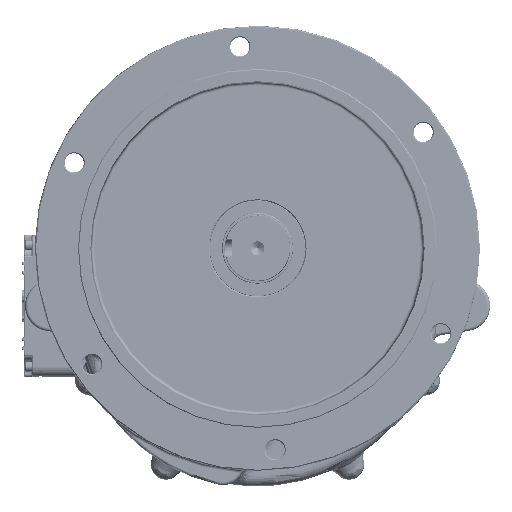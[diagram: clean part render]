
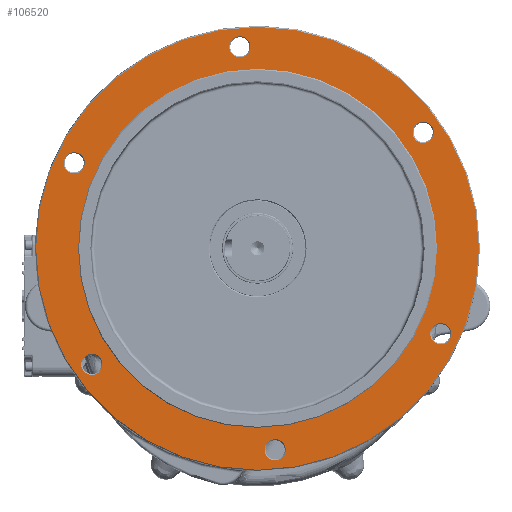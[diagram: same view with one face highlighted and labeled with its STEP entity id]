
A CAD part, front view. The second image highlights one B-rep face of the part: STEP entity #106520.
In plain terms, the highlighted planar face has unit normal (0, -1, 0).
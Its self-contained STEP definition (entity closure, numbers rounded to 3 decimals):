
#6343=FACE_BOUND('',#17553,.T.);
#6344=FACE_BOUND('',#17554,.T.);
#6345=FACE_BOUND('',#17555,.T.);
#6346=FACE_BOUND('',#17556,.T.);
#6347=FACE_BOUND('',#17557,.T.);
#6348=FACE_BOUND('',#17558,.T.);
#6349=FACE_BOUND('',#17559,.T.);
#7399=PLANE('',#115098);
#10920=FACE_OUTER_BOUND('',#17552,.T.);
#17552=EDGE_LOOP('',(#78208));
#17553=EDGE_LOOP('',(#78209));
#17554=EDGE_LOOP('',(#78210));
#17555=EDGE_LOOP('',(#78211));
#17556=EDGE_LOOP('',(#78212));
#17557=EDGE_LOOP('',(#78213));
#17558=EDGE_LOOP('',(#78214));
#17559=EDGE_LOOP('',(#78215));
#37106=CIRCLE('',#114919,219.);
#37109=CIRCLE('',#114924,177.5);
#37184=CIRCLE('',#115064,10.5);
#37195=CIRCLE('',#115079,10.5);
#37198=CIRCLE('',#115084,10.5);
#37201=CIRCLE('',#115089,10.5);
#37204=CIRCLE('',#115094,10.5);
#37207=CIRCLE('',#115099,10.5);
#44297=VERTEX_POINT('',#177991);
#44300=VERTEX_POINT('',#178000);
#44438=VERTEX_POINT('',#179850);
#44446=VERTEX_POINT('',#179875);
#44449=VERTEX_POINT('',#179885);
#44452=VERTEX_POINT('',#179895);
#44455=VERTEX_POINT('',#179905);
#44458=VERTEX_POINT('',#179915);
#56061=EDGE_CURVE('',#44297,#44297,#37106,.T.);
#56065=EDGE_CURVE('',#44300,#44300,#37109,.T.);
#56308=EDGE_CURVE('',#44438,#44438,#37184,.T.);
#56321=EDGE_CURVE('',#44446,#44446,#37195,.T.);
#56326=EDGE_CURVE('',#44449,#44449,#37198,.T.);
#56331=EDGE_CURVE('',#44452,#44452,#37201,.T.);
#56336=EDGE_CURVE('',#44455,#44455,#37204,.T.);
#56341=EDGE_CURVE('',#44458,#44458,#37207,.T.);
#78208=ORIENTED_EDGE('',*,*,#56061,.F.);
#78209=ORIENTED_EDGE('',*,*,#56336,.F.);
#78210=ORIENTED_EDGE('',*,*,#56326,.F.);
#78211=ORIENTED_EDGE('',*,*,#56308,.F.);
#78212=ORIENTED_EDGE('',*,*,#56065,.F.);
#78213=ORIENTED_EDGE('',*,*,#56321,.F.);
#78214=ORIENTED_EDGE('',*,*,#56331,.F.);
#78215=ORIENTED_EDGE('',*,*,#56341,.F.);
#106520=ADVANCED_FACE('',(#10920,#6343,#6344,#6345,#6346,#6347,#6348,#6349),
#7399,.T.);
#114919=AXIS2_PLACEMENT_3D('',#177993,#132951,#132952);
#114924=AXIS2_PLACEMENT_3D('',#178002,#132962,#132963);
#115064=AXIS2_PLACEMENT_3D('',#179851,#133333,#133334);
#115079=AXIS2_PLACEMENT_3D('',#179876,#133365,#133366);
#115084=AXIS2_PLACEMENT_3D('',#179886,#133377,#133378);
#115089=AXIS2_PLACEMENT_3D('',#179896,#133389,#133390);
#115094=AXIS2_PLACEMENT_3D('',#179906,#133401,#133402);
#115098=AXIS2_PLACEMENT_3D('',#179914,#133411,#133412);
#115099=AXIS2_PLACEMENT_3D('',#179916,#133413,#133414);
#132951=DIRECTION('center_axis',(0.,1.,0.));
#132952=DIRECTION('ref_axis',(-1.,0.,0.));
#132962=DIRECTION('center_axis',(0.,-1.,0.));
#132963=DIRECTION('ref_axis',(-1.,0.,0.));
#133333=DIRECTION('center_axis',(0.,-1.,0.));
#133334=DIRECTION('ref_axis',(-1.,0.,0.));
#133365=DIRECTION('center_axis',(0.,-1.,0.));
#133366=DIRECTION('ref_axis',(-0.5,0.,0.866));
#133377=DIRECTION('center_axis',(0.,-1.,0.));
#133378=DIRECTION('ref_axis',(0.5,0.,0.866));
#133389=DIRECTION('center_axis',(0.,-1.,0.));
#133390=DIRECTION('ref_axis',(1.,0.,0.));
#133401=DIRECTION('center_axis',(0.,-1.,0.));
#133402=DIRECTION('ref_axis',(0.5,0.,-0.866));
#133411=DIRECTION('center_axis',(0.,-1.,0.));
#133412=DIRECTION('ref_axis',(0.,0.,-1.));
#133413=DIRECTION('center_axis',(0.,-1.,0.));
#133414=DIRECTION('ref_axis',(-0.5,0.,-0.866));
#177991=CARTESIAN_POINT('',(219.228,-228.728,55.25));
#177993=CARTESIAN_POINT('Origin',(0.228,-228.728,55.25));
#178000=CARTESIAN_POINT('',(177.728,-228.728,55.25));
#178002=CARTESIAN_POINT('Origin',(0.228,-228.728,55.25));
#179850=CARTESIAN_POINT('',(-6.703,-228.728,254.489));
#179851=CARTESIAN_POINT('Origin',(-17.203,-228.728,254.489));
#179875=CARTESIAN_POINT('',(169.309,-228.728,160.872));
#179876=CARTESIAN_POINT('Origin',(164.059,-228.728,169.965));
#179885=CARTESIAN_POINT('',(176.24,-228.728,-38.367));
#179886=CARTESIAN_POINT('Origin',(181.49,-228.728,-29.274));
#179895=CARTESIAN_POINT('',(7.16,-228.728,-143.989));
#179896=CARTESIAN_POINT('Origin',(17.66,-228.728,-143.989));
#179905=CARTESIAN_POINT('',(-168.852,-228.728,-50.372));
#179906=CARTESIAN_POINT('Origin',(-163.602,-228.728,-59.465));
#179914=CARTESIAN_POINT('Origin',(0.228,-228.728,55.25));
#179915=CARTESIAN_POINT('',(-175.783,-228.728,148.867));
#179916=CARTESIAN_POINT('Origin',(-181.033,-228.728,139.774));
